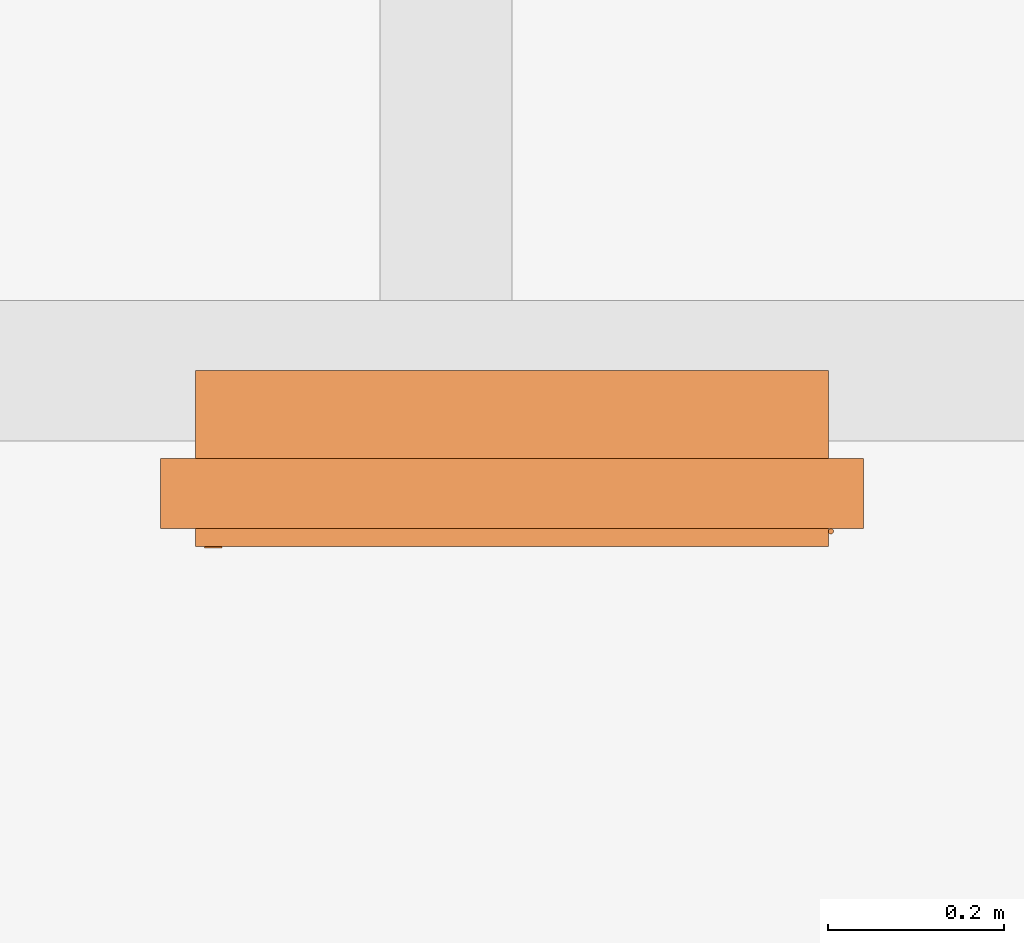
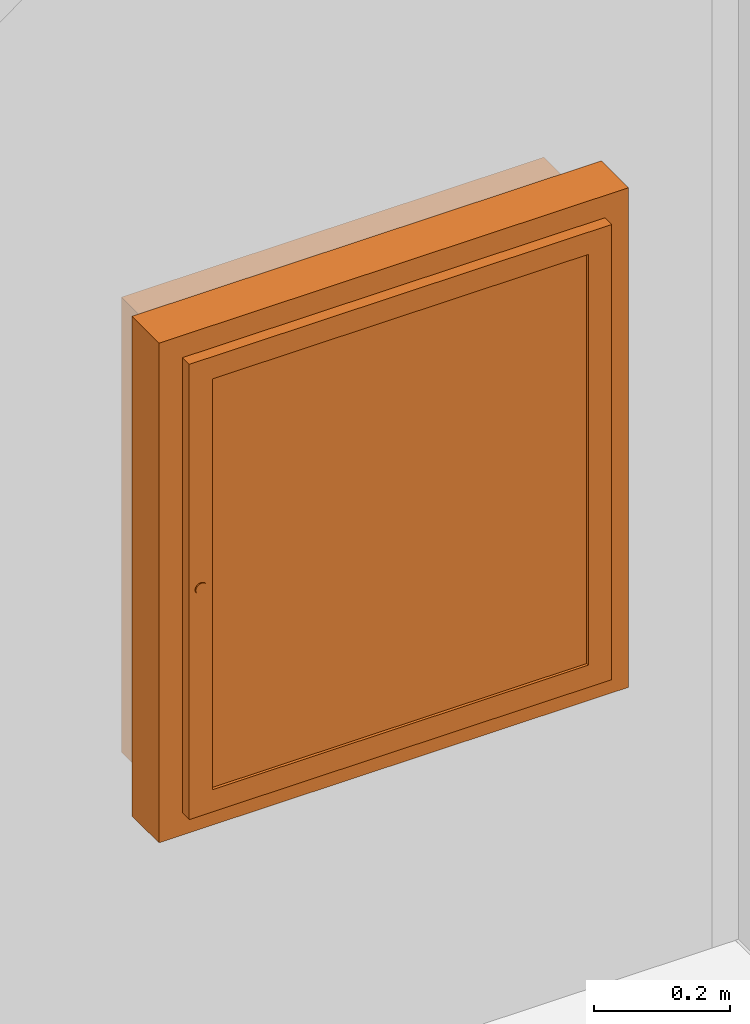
# One storey, part 15 of 46: 1 proxy.
"""IFC2X3 building model written with IfcOpenShell, lengths in millimetres."""

from ifc_helpers import new_model, entity, si_unit, converted_unit, derived_unit, money_unit, direction, frame, origin_with_axes, place, context, subcontext, project, spatial, faceted_brep, source, transform, mapped, type_object, element, save


model = new_model("IFC2X3")

# Units and contexts
model_context = context("Model", 3, precision=0.01, world=origin_with_axes(), true_north=direction((0.34421633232, 0.938890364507)))
body_context = subcontext(model_context, "Body", "Model", "MODEL_VIEW")
ifc_project = project(units=[si_unit("LENGTHUNIT", "METRE", prefix="MILLI"), si_unit("AREAUNIT", "SQUARE_METRE"), si_unit("VOLUMEUNIT", "CUBIC_METRE"), converted_unit("PLANEANGLEUNIT", "DEGREE", entity("IfcPlaneAngleMeasure", 0.0174532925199), si_unit("PLANEANGLEUNIT", "RADIAN"), dimensions=[0, 0, 0, 0, 0, 0, 0]), si_unit("SOLIDANGLEUNIT", "STERADIAN"), money_unit("USD"), converted_unit("TIMEUNIT", "Year", entity("IfcTimeMeasure", 31556926.0), si_unit("TIMEUNIT", "SECOND"), dimensions=[0, 0, 1, 0, 0, 0, 0]), si_unit("MASSUNIT", "GRAM", prefix="KILO"), si_unit("THERMODYNAMICTEMPERATUREUNIT", "DEGREE_CELSIUS"), si_unit("LUMINOUSINTENSITYUNIT", "LUMEN"), si_unit("ENERGYUNIT", "JOULE", prefix="MEGA"), derived_unit("THERMALCONDUCTANCEUNIT", [(si_unit("POWERUNIT", "WATT"), 1), (si_unit("LENGTHUNIT", "METRE"), -1), (si_unit("THERMODYNAMICTEMPERATUREUNIT", "KELVIN"), -1)]), derived_unit("SPECIFICHEATCAPACITYUNIT", [(si_unit("ENERGYUNIT", "JOULE"), 1), (si_unit("MASSUNIT", "GRAM", prefix="KILO"), -1), (si_unit("THERMODYNAMICTEMPERATUREUNIT", "KELVIN"), -1)]), derived_unit("MASSDENSITYUNIT", [(si_unit("MASSUNIT", "GRAM", prefix="KILO"), 1), (si_unit("VOLUMEUNIT", "CUBIC_METRE"), -1)])], contexts=[model_context])

# Site, building, storey
site_placement = place(None, origin_with_axes())
site = spatial("IfcSite", under=ifc_project, at=site_placement, Name="USTRONIE MORSKIE", CompositionType="ELEMENT")
building_placement = place(site_placement, origin_with_axes())
building = spatial("IfcBuilding", under=site, at=building_placement, Name="Budynek", CompositionType="ELEMENT")
storey_placement = place(building_placement, origin_with_axes())
storey = spatial("IfcBuildingStorey", under=building, at=storey_placement, Name="PARTER", CompositionType="ELEMENT", Elevation=0.0)

# Proxy
building_element_proxy_type = type_object("IfcBuildingElementProxyType", Name="Skrzynka P-Poż 23", PredefinedType="NOTDEFINED")
shared_shape = source(origin_with_axes(), body_context, "Body", "Brep", [
    faceted_brep([(0.0, 100.0, 0.0), (0.0, 20.0, 0.0), (-800.0, 20.0, 0.0), (-800.0, 100.0, 0.0), (0.0, 100.0, 900.0), (0.0, 20.0, 900.0), (-800.0, 20.0, 900.0), (-60.0, 20.0, 60.0), (-740.0, 20.0, 60.0), (-740.0, 20.0, 840.0), (-60.0, 20.0, 840.0), (-800.0, 100.0, 900.0), (-60.0, 100.0, 60.0), (-60.0, 100.0, 840.0), (-740.0, 100.0, 840.0), (-740.0, 100.0, 60.0)], [[[0, 1, 2, 3]], [[4, 5, 1, 0]], [[1, 5, 6, 2], [7, 8, 9, 10]], [[3, 2, 6, 11]], [[0, 3, 11, 4], [12, 13, 14, 15]], [[11, 6, 5, 4]], [[15, 8, 7, 12]], [[14, 9, 8, 15]], [[13, 10, 9, 14]], [[12, 7, 10, 13]]]),
    faceted_brep([(-40.0, 20.0, 40.0), (-40.0, 0.0, 40.0), (-760.0, 0.0, 40.0), (-760.0, 20.0, 40.0), (-40.0, 20.0, 860.0), (-40.0, 0.0, 860.0), (-760.0, 0.0, 860.0), (-80.0, 0.0, 80.0), (-720.0, 0.0, 80.0), (-720.0, 0.0, 820.0), (-80.0, 0.0, 820.0), (-760.0, 20.0, 860.0), (-80.0, 20.0, 80.0), (-80.0, 20.0, 820.0), (-720.0, 20.0, 820.0), (-720.0, 20.0, 80.0)], [[[0, 1, 2, 3]], [[4, 5, 1, 0]], [[1, 5, 6, 2], [7, 8, 9, 10]], [[3, 2, 6, 11]], [[0, 3, 11, 4], [12, 13, 14, 15]], [[11, 6, 5, 4]], [[15, 8, 7, 12]], [[14, 9, 8, 15]], [[13, 10, 9, 14]], [[12, 7, 10, 13]]]),
    faceted_brep([(-40.0, 180.0, 40.0), (-40.0, 100.0, 40.0), (-760.0, 100.0, 40.0), (-760.0, 180.0, 40.0), (-40.0, 180.0, 860.0), (-40.0, 100.0, 860.0), (-760.0, 100.0, 860.0), (-60.0, 100.0, 60.0), (-740.0, 100.0, 60.0), (-740.0, 100.0, 840.0), (-60.0, 100.0, 840.0), (-760.0, 180.0, 860.0), (-60.0, 180.0, 60.0), (-60.0, 180.0, 840.0), (-740.0, 180.0, 840.0), (-740.0, 180.0, 60.0)], [[[0, 1, 2, 3]], [[4, 5, 1, 0]], [[1, 5, 6, 2], [7, 8, 9, 10]], [[3, 2, 6, 11]], [[0, 3, 11, 4], [12, 13, 14, 15]], [[11, 6, 5, 4]], [[15, 8, 7, 12]], [[14, 9, 8, 15]], [[13, 10, 9, 14]], [[12, 7, 10, 13]]]),
    faceted_brep([(-40.0, 200.0, 40.0), (-40.0, 180.0, 40.0), (-760.0, 180.0, 40.0), (-760.0, 200.0, 40.0), (-40.0, 200.0, 860.0), (-40.0, 180.0, 860.0), (-760.0, 180.0, 860.0), (-760.0, 200.0, 860.0)], [[[0, 1, 2, 3]], [[4, 5, 1, 0]], [[1, 5, 6, 2]], [[3, 2, 6, 7]], [[0, 3, 7, 4]], [[7, 6, 5, 4]]]),
    faceted_brep([(-80.0, 15.0, 80.0), (-80.0, 5.0, 80.0), (-720.0, 5.0, 80.0), (-720.0, 15.0, 80.0), (-80.0, 15.0, 820.0), (-80.0, 5.0, 820.0), (-720.0, 5.0, 820.0), (-720.0, 15.0, 820.0)], [[[0, 1, 2, 3]], [[4, 5, 1, 0]], [[1, 5, 6, 2]], [[3, 2, 6, 7]], [[0, 3, 7, 4]], [[7, 6, 5, 4]]]),
    faceted_brep([(-749.659258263, 0.0, 447.411809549), (-750.0, 0.0, 450.0), (-749.659258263, 0.0, 452.588190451), (-748.660254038, 0.0, 455.0), (-747.071067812, 0.0, 457.071067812), (-745.0, 0.0, 458.660254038), (-742.588190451, 0.0, 459.659258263), (-740.0, 0.0, 460.0), (-737.411809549, 0.0, 459.659258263), (-735.0, 0.0, 458.660254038), (-732.928932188, 0.0, 457.071067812), (-731.339745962, 0.0, 455.0), (-730.340741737, 0.0, 452.588190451), (-730.0, 0.0, 450.0), (-730.340741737, 0.0, 447.411809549), (-731.339745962, 0.0, 445.0), (-732.928932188, 0.0, 442.928932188), (-735.0, 0.0, 441.339745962), (-737.411809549, 0.0, 440.340741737), (-740.0, 0.0, 440.0), (-742.588190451, 0.0, 440.340741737), (-745.0, 0.0, 441.339745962), (-747.071067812, 0.0, 442.928932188), (-748.660254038, 0.0, 445.0), (-749.659258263, -2.0, 447.411809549), (-750.0, -2.0, 450.0), (-749.659258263, -2.0, 452.588190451), (-748.660254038, -2.0, 455.0), (-747.071067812, -2.0, 457.071067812), (-745.0, -2.0, 458.660254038), (-742.588190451, -2.0, 459.659258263), (-740.0, -2.0, 460.0), (-737.411809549, -2.0, 459.659258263), (-735.0, -2.0, 458.660254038), (-732.928932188, -2.0, 457.071067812), (-731.339745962, -2.0, 455.0), (-730.340741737, -2.0, 452.588190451), (-730.0, -2.0, 450.0), (-730.340741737, -2.0, 447.411809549), (-731.339745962, -2.0, 445.0), (-732.928932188, -2.0, 442.928932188), (-735.0, -2.0, 441.339745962), (-737.411809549, -2.0, 440.340741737), (-740.0, -2.0, 440.0), (-742.588190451, -2.0, 440.340741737), (-745.0, -2.0, 441.339745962), (-747.071067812, -2.0, 442.928932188), (-748.660254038, -2.0, 445.0)], [[[0, 1, 2, 3, 4, 5, 6, 7, 8, 9, 10, 11, 12, 13, 14, 15, 16, 17, 18, 19, 20, 21, 22, 23]], [[0, 24, 25, 1]], [[1, 25, 26, 2]], [[2, 26, 27, 3]], [[3, 27, 28, 4]], [[4, 28, 29, 5]], [[5, 29, 30, 6]], [[6, 30, 31, 7]], [[7, 31, 32, 8]], [[8, 32, 33, 9]], [[9, 33, 34, 10]], [[10, 34, 35, 11]], [[11, 35, 36, 12]], [[12, 36, 37, 13]], [[13, 37, 38, 14]], [[14, 38, 39, 15]], [[15, 39, 40, 16]], [[16, 40, 41, 17]], [[17, 41, 42, 18]], [[18, 42, 43, 19]], [[19, 43, 44, 20]], [[20, 44, 45, 21]], [[21, 45, 46, 22]], [[22, 46, 47, 23]], [[23, 47, 24, 0]], [[24, 47, 46, 45, 44, 43, 42, 41, 40, 39, 38, 37, 36, 35, 34, 33, 32, 31, 30, 29, 28, 27, 26, 25]]]),
    faceted_brep([(-39.8977774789, 16.2235428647, 80.0), (-40.0, 17.0, 80.0), (-39.8977774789, 17.7764571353, 80.0), (-39.5980762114, 18.5, 80.0), (-39.1213203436, 19.1213203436, 80.0), (-38.5, 19.5980762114, 80.0), (-37.7764571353, 19.8977774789, 80.0), (-37.0, 20.0, 80.0), (-36.2235428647, 19.8977774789, 80.0), (-35.5, 19.5980762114, 80.0), (-34.8786796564, 19.1213203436, 80.0), (-34.4019237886, 18.5, 80.0), (-34.1022225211, 17.7764571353, 80.0), (-34.0, 17.0, 80.0), (-34.1022225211, 16.2235428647, 80.0), (-34.4019237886, 15.5, 80.0), (-34.8786796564, 14.8786796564, 80.0), (-35.5, 14.4019237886, 80.0), (-36.2235428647, 14.1022225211, 80.0), (-37.0, 14.0, 80.0), (-37.7764571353, 14.1022225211, 80.0), (-38.5, 14.4019237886, 80.0), (-39.1213203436, 14.8786796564, 80.0), (-39.5980762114, 15.5, 80.0), (-39.8977774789, 16.2235428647, 120.0), (-40.0, 17.0, 120.0), (-39.8977774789, 17.7764571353, 120.0), (-39.5980762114, 18.5, 120.0), (-39.1213203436, 19.1213203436, 120.0), (-38.5, 19.5980762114, 120.0), (-37.7764571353, 19.8977774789, 120.0), (-37.0, 20.0, 120.0), (-36.2235428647, 19.8977774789, 120.0), (-35.5, 19.5980762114, 120.0), (-34.8786796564, 19.1213203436, 120.0), (-34.4019237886, 18.5, 120.0), (-34.1022225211, 17.7764571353, 120.0), (-34.0, 17.0, 120.0), (-34.1022225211, 16.2235428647, 120.0), (-34.4019237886, 15.5, 120.0), (-34.8786796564, 14.8786796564, 120.0), (-35.5, 14.4019237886, 120.0), (-36.2235428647, 14.1022225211, 120.0), (-37.0, 14.0, 120.0), (-37.7764571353, 14.1022225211, 120.0), (-38.5, 14.4019237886, 120.0), (-39.1213203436, 14.8786796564, 120.0), (-39.5980762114, 15.5, 120.0)], [[[0, 1, 2, 3, 4, 5, 6, 7, 8, 9, 10, 11, 12, 13, 14, 15, 16, 17, 18, 19, 20, 21, 22, 23]], [[0, 24, 25, 1]], [[1, 25, 26, 2]], [[2, 26, 27, 3]], [[3, 27, 28, 4]], [[4, 28, 29, 5]], [[5, 29, 30, 6]], [[6, 30, 31, 7]], [[7, 31, 32, 8]], [[8, 32, 33, 9]], [[9, 33, 34, 10]], [[10, 34, 35, 11]], [[11, 35, 36, 12]], [[12, 36, 37, 13]], [[13, 37, 38, 14]], [[14, 38, 39, 15]], [[15, 39, 40, 16]], [[16, 40, 41, 17]], [[17, 41, 42, 18]], [[18, 42, 43, 19]], [[19, 43, 44, 20]], [[20, 44, 45, 21]], [[21, 45, 46, 22]], [[22, 46, 47, 23]], [[23, 47, 24, 0]], [[24, 47, 46, 45, 44, 43, 42, 41, 40, 39, 38, 37, 36, 35, 34, 33, 32, 31, 30, 29, 28, 27, 26, 25]]]),
    faceted_brep([(-39.8977774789, 16.2235428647, 780.0), (-40.0, 17.0, 780.0), (-39.8977774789, 17.7764571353, 780.0), (-39.5980762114, 18.5, 780.0), (-39.1213203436, 19.1213203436, 780.0), (-38.5, 19.5980762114, 780.0), (-37.7764571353, 19.8977774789, 780.0), (-37.0, 20.0, 780.0), (-36.2235428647, 19.8977774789, 780.0), (-35.5, 19.5980762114, 780.0), (-34.8786796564, 19.1213203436, 780.0), (-34.4019237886, 18.5, 780.0), (-34.1022225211, 17.7764571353, 780.0), (-34.0, 17.0, 780.0), (-34.1022225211, 16.2235428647, 780.0), (-34.4019237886, 15.5, 780.0), (-34.8786796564, 14.8786796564, 780.0), (-35.5, 14.4019237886, 780.0), (-36.2235428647, 14.1022225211, 780.0), (-37.0, 14.0, 780.0), (-37.7764571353, 14.1022225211, 780.0), (-38.5, 14.4019237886, 780.0), (-39.1213203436, 14.8786796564, 780.0), (-39.5980762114, 15.5, 780.0), (-39.8977774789, 16.2235428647, 820.0), (-40.0, 17.0, 820.0), (-39.8977774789, 17.7764571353, 820.0), (-39.5980762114, 18.5, 820.0), (-39.1213203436, 19.1213203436, 820.0), (-38.5, 19.5980762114, 820.0), (-37.7764571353, 19.8977774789, 820.0), (-37.0, 20.0, 820.0), (-36.2235428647, 19.8977774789, 820.0), (-35.5, 19.5980762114, 820.0), (-34.8786796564, 19.1213203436, 820.0), (-34.4019237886, 18.5, 820.0), (-34.1022225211, 17.7764571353, 820.0), (-34.0, 17.0, 820.0), (-34.1022225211, 16.2235428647, 820.0), (-34.4019237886, 15.5, 820.0), (-34.8786796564, 14.8786796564, 820.0), (-35.5, 14.4019237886, 820.0), (-36.2235428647, 14.1022225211, 820.0), (-37.0, 14.0, 820.0), (-37.7764571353, 14.1022225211, 820.0), (-38.5, 14.4019237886, 820.0), (-39.1213203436, 14.8786796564, 820.0), (-39.5980762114, 15.5, 820.0)], [[[0, 1, 2, 3, 4, 5, 6, 7, 8, 9, 10, 11, 12, 13, 14, 15, 16, 17, 18, 19, 20, 21, 22, 23]], [[0, 24, 25, 1]], [[1, 25, 26, 2]], [[2, 26, 27, 3]], [[3, 27, 28, 4]], [[4, 28, 29, 5]], [[5, 29, 30, 6]], [[6, 30, 31, 7]], [[7, 31, 32, 8]], [[8, 32, 33, 9]], [[9, 33, 34, 10]], [[10, 34, 35, 11]], [[11, 35, 36, 12]], [[12, 36, 37, 13]], [[13, 37, 38, 14]], [[14, 38, 39, 15]], [[15, 39, 40, 16]], [[16, 40, 41, 17]], [[17, 41, 42, 18]], [[18, 42, 43, 19]], [[19, 43, 44, 20]], [[20, 44, 45, 21]], [[21, 45, 46, 22]], [[22, 46, 47, 23]], [[23, 47, 24, 0]], [[24, 47, 46, 45, 44, 43, 42, 41, 40, 39, 38, 37, 36, 35, 34, 33, 32, 31, 30, 29, 28, 27, 26, 25]]]),
])
proxy_placement = place(storey_placement, frame((379017.937739, 736651.199036, 600.0), z_axis=(0.0, 0.0, 1.0), x_axis=(1.0, 0.0, 0.0)))
element("IfcBuildingElementProxy", 1, at=proxy_placement, inside=storey, type_object=building_element_proxy_type, Name="OB3", context=body_context, shape_type="MappedRepresentation", body=[
    mapped(shared_shape, transform((0.0, 0.0, 0.0))),
])

save(model, "model.ifc")
